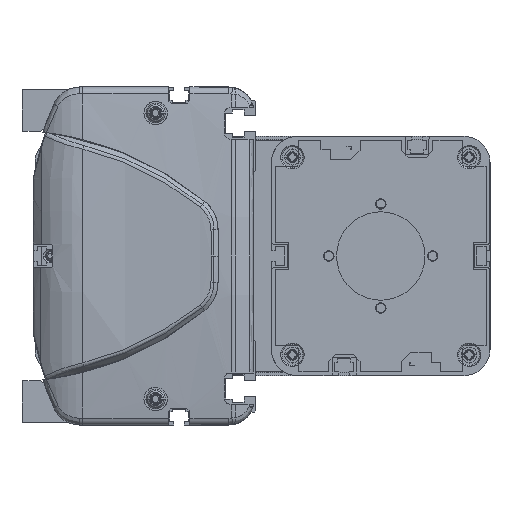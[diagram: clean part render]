
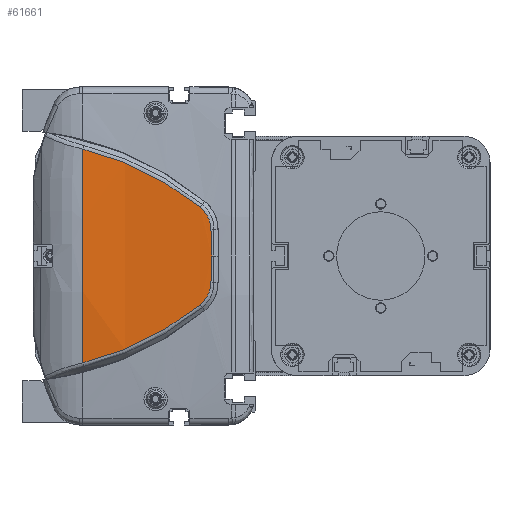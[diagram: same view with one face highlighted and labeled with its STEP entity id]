
A CAD part, left-side view. The second image highlights one B-rep face of the part: STEP entity #61661.
In plain terms, the highlighted cylindrical face has radius 500 mm (diameter 1000 mm), a partial arc.
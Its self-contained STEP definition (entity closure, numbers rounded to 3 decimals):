
#57830=CARTESIAN_POINT('',(-314.,66.962,0.));
#57831=DIRECTION('',(0.,-1.,0.));
#57832=DIRECTION('',(-0.997,0.,0.082));
#57833=AXIS2_PLACEMENT_3D('',#57830,#57831,#57832);
#58720=CARTESIAN_POINT('',(-813.648,21.913,
-18.759));
#58721=CARTESIAN_POINT('',(-813.449,28.504,
-24.058));
#58722=CARTESIAN_POINT('',(-812.934,42.795,
-33.27));
#58723=CARTESIAN_POINT('',(-812.471,58.756,
-39.127));
#58724=CARTESIAN_POINT('',(-812.306,66.962,
-41.121));
#58726=CARTESIAN_POINT('',(-812.306,66.962,
41.121));
#58727=CARTESIAN_POINT('',(-812.471,58.756,
39.127));
#58728=CARTESIAN_POINT('',(-812.934,42.795,
33.27));
#58729=CARTESIAN_POINT('',(-813.449,28.504,
24.058));
#58730=CARTESIAN_POINT('',(-813.648,21.913,
18.759));
#58732=CARTESIAN_POINT('',(-813.648,21.913,
18.759));
#58733=CARTESIAN_POINT('',(-813.686,20.635,
17.736));
#58734=CARTESIAN_POINT('',(-813.779,18.536,
15.107));
#58735=CARTESIAN_POINT('',(-813.863,17.752,
11.827));
#58736=CARTESIAN_POINT('',(-813.896,17.724,
10.178));
#58738=CARTESIAN_POINT('',(-813.896,17.724,
10.178));
#58739=CARTESIAN_POINT('',(-813.92,17.707,
9.024));
#58740=CARTESIAN_POINT('',(-813.959,17.667,
6.73));
#58741=CARTESIAN_POINT('',(-813.993,17.579,
3.336));
#58742=CARTESIAN_POINT('',(-814.,17.498,
1.106));
#58743=CARTESIAN_POINT('',(-814.,17.449,
0.));
#58745=CARTESIAN_POINT('',(-814.,17.449,
0.));
#58746=CARTESIAN_POINT('',(-814.,17.498,
-1.106));
#58747=CARTESIAN_POINT('',(-813.993,17.579,
-3.336));
#58748=CARTESIAN_POINT('',(-813.959,17.667,
-6.729));
#58749=CARTESIAN_POINT('',(-813.92,17.707,
-9.026));
#58750=CARTESIAN_POINT('',(-813.896,17.724,
-10.18));
#58752=CARTESIAN_POINT('',(-813.896,17.724,
-10.18));
#58753=CARTESIAN_POINT('',(-813.863,17.752,
-11.828));
#58754=CARTESIAN_POINT('',(-813.779,18.537,
-15.109));
#58755=CARTESIAN_POINT('',(-813.686,20.635,
-17.736));
#58756=CARTESIAN_POINT('',(-813.648,21.913,
-18.759));
#59439=VERTEX_POINT('',#58720);
#59440=VERTEX_POINT('',#58724);
#59441=CARTESIAN_POINT('',(-812.306,66.962,
41.121));
#59442=VERTEX_POINT('',#59441);
#59443=VERTEX_POINT('',#58730);
#59444=VERTEX_POINT('',#58736);
#59445=VERTEX_POINT('',#58743);
#59446=VERTEX_POINT('',#58750);
#61642=CARTESIAN_POINT('',(-314.,8.606,0.));
#61643=DIRECTION('',(0.,1.,0.));
#61644=DIRECTION('',(1.,0.,0.));
#61645=AXIS2_PLACEMENT_3D('',#61642,#61643,#61644);
#61646=CYLINDRICAL_SURFACE('',#61645,500.);
#61648=ORIENTED_EDGE('',*,*,#61647,.T.);
#61649=ORIENTED_EDGE('',*,*,#60294,.F.);
#61651=ORIENTED_EDGE('',*,*,#61650,.T.);
#61653=ORIENTED_EDGE('',*,*,#61652,.T.);
#61655=ORIENTED_EDGE('',*,*,#61654,.T.);
#61657=ORIENTED_EDGE('',*,*,#61656,.T.);
#61658=ORIENTED_EDGE('',*,*,#61632,.T.);
#61659=EDGE_LOOP('',(#61648,#61649,#61651,#61653,#61655,#61657,#61658));
#61660=FACE_OUTER_BOUND('',#61659,.F.);
#61661=ADVANCED_FACE('',(#61660),#61646,.T.);
#57834=CIRCLE('',#57833,500.);
#58725=B_SPLINE_CURVE_WITH_KNOTS('',3,(#58720,#58721,#58722,#58723,#58724),
.UNSPECIFIED.,.F.,.F.,(4,1,4),(0.,0.5,1.),.UNSPECIFIED.);
#58731=B_SPLINE_CURVE_WITH_KNOTS('',3,(#58726,#58727,#58728,#58729,#58730),
.UNSPECIFIED.,.F.,.F.,(4,1,4),(0.,0.5,1.),.UNSPECIFIED.);
#58737=B_SPLINE_CURVE_WITH_KNOTS('',3,(#58732,#58733,#58734,#58735,#58736),
.UNSPECIFIED.,.F.,.F.,(4,1,4),(0.,0.5,1.),.UNSPECIFIED.);
#58744=B_SPLINE_CURVE_WITH_KNOTS('',3,(#58738,#58739,#58740,#58741,#58742,
#58743),.UNSPECIFIED.,.F.,.F.,(4,1,1,4),(0.,0.333,
0.667,1.),.UNSPECIFIED.);
#58751=B_SPLINE_CURVE_WITH_KNOTS('',3,(#58745,#58746,#58747,#58748,#58749,
#58750),.UNSPECIFIED.,.F.,.F.,(4,1,1,4),(0.,0.333,
0.667,1.),.UNSPECIFIED.);
#58757=B_SPLINE_CURVE_WITH_KNOTS('',3,(#58752,#58753,#58754,#58755,#58756),
.UNSPECIFIED.,.F.,.F.,(4,1,4),(0.,0.5,1.),.UNSPECIFIED.);
#60294=EDGE_CURVE('',#59442,#59440,#57834,.T.);
#61632=EDGE_CURVE('',#59446,#59439,#58757,.T.);
#61647=EDGE_CURVE('',#59439,#59440,#58725,.T.);
#61650=EDGE_CURVE('',#59442,#59443,#58731,.T.);
#61652=EDGE_CURVE('',#59443,#59444,#58737,.T.);
#61654=EDGE_CURVE('',#59444,#59445,#58744,.T.);
#61656=EDGE_CURVE('',#59445,#59446,#58751,.T.);
